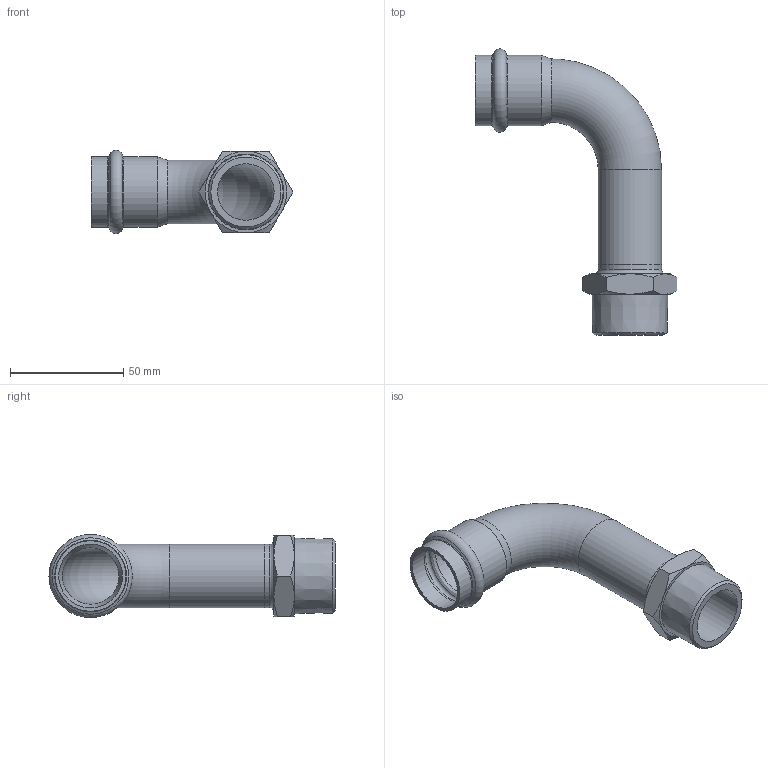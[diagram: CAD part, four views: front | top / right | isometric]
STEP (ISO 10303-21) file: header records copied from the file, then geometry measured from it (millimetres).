
FILE_DESCRIPTION((''),'2;1');
FILE_NAME('G:\Nirosan-Schmiedefeld\Technics\CAD\Bauteile VA\028\69002AG281(1).stp','2011-09-06T09:25:36',('herberg'),(''),'Autodesk Inventor 2009','Autodesk Inventor 2009','');
FILE_SCHEMA(('AUTOMOTIVE_DESIGN { 1 0 10303 214 1 1 1 1 }'));
Length unit declared in the file: millimetre
Products named in the file (3): 69002AG281(1); 69001A28(1); AG281(1)
Assembly tree (2 placements, depth 2):
  69002AG281(1)
    69001A28(1)
    AG281(1)
Bounding box: 89.18 x 126.39 x 36.79 mm (x, y, z)
Volume: 30156.3 mm3; surface area: 30102.7 mm2
Topology: 2 solids, 2 shells, 47 faces, 97 edges, 56 vertices
Faces by surface type: cone 18, plane 12, cylinder 7, bspline 6, torus 4
Full cylindrical faces by diameter (mm): 25 x1, 28 x2, 28.2 x2, 31.2 x2
Entity records: 1422 total; most frequent: CARTESIAN_POINT 529, DIRECTION 174, ORIENTED_EDGE 140, AXIS2_PLACEMENT_3D 84, EDGE_LOOP 76, EDGE_CURVE 70, VERTEX_POINT 52, FACE_OUTER_BOUND 47
